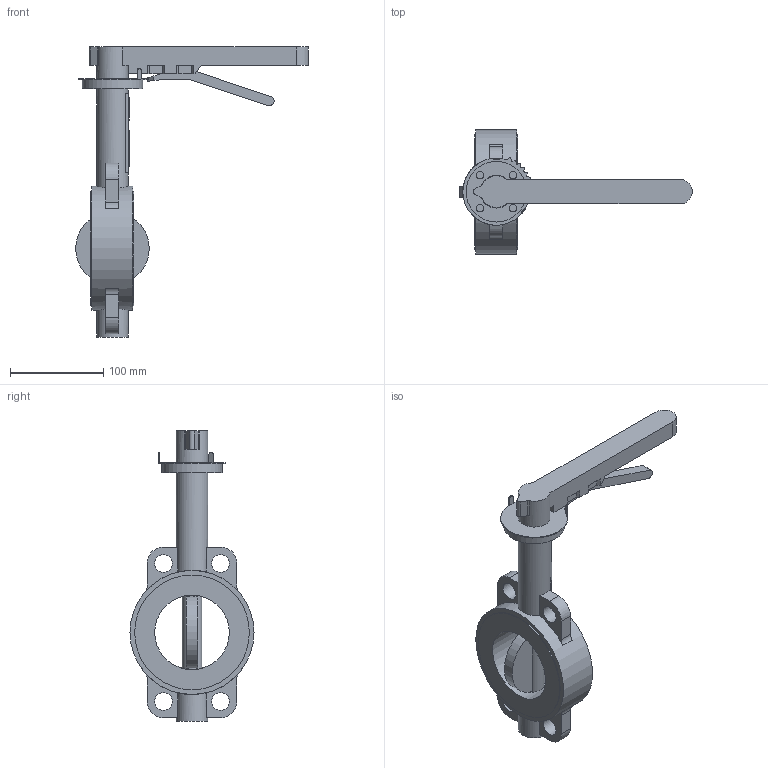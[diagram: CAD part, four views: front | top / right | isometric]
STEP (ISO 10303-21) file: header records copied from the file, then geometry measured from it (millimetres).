
FILE_DESCRIPTION(('STEP AP203'), '1');
FILE_NAME('Çàòâîð 017W.Z(÷óãóí) DN80 PN10_16 ðóêîÿòêà', '', ('UNSPECIFIED'), ('UNSPECIFIED'), 'ASCON STEP Converter 1.6', 'ASCON Math Kernel', '');
FILE_SCHEMA(('CONFIG_CONTROL_DESIGN'));
Length unit declared in the file: millimetre
Bounding box: 249.4 x 133 x 311 mm (x, y, z)
Volume: 164924.6 mm3; surface area: 132046.5 mm2
Topology: 1 solids, 2 shells, 741 faces, 2177 edges, 1406 vertices
Faces by surface type: cylinder 506, plane 235
Full cylindrical faces by diameter (mm): 8 x4, 12.6 x1, 19 x4, 21 x1, 34 x3, 35 x1, 65 x1, 80 x1, 123 x2, 133 x1
Entity records: 31840 total; most frequent: CARTESIAN_POINT 5217, DIRECTION 4690, ORIENTED_EDGE 4255, EDGE_CURVE 2159, AXIS2_PLACEMENT_3D 1812, VERTEX_POINT 1406, CIRCLE 1070, LINE 1066
